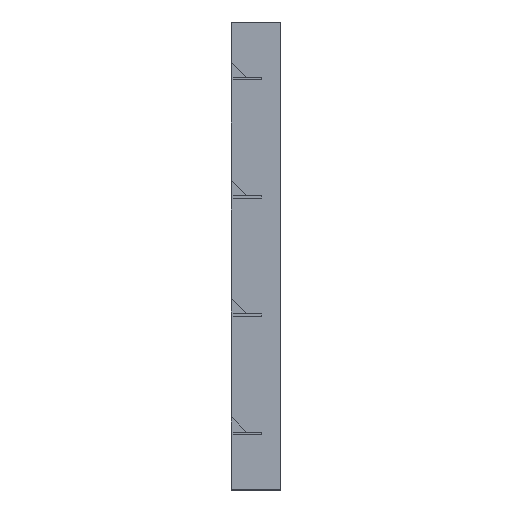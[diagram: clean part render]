
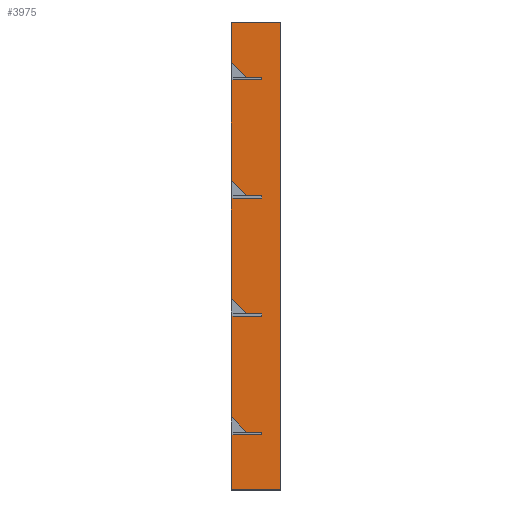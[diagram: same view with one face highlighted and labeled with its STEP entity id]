
A CAD part, left-side view. The second image highlights one B-rep face of the part: STEP entity #3975.
In plain terms, the highlighted planar face has unit normal (-1, 0, 0) as drawn and (0, 0, 1) by its records, which use the part's own axes.
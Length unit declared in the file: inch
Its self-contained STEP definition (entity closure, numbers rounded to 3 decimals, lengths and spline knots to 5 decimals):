
#259=FACE_OUTER_BOUND('',#455,.T.);
#455=EDGE_LOOP('',(#3387,#3388,#3389,#3390,#3391,#3392,#3393,#3394,#3395,
#3396,#3397,#3398,#3399,#3400,#3401,#3402,#3403,#3404,#3405,#3406,#3407,
#3408,#3409,#3410,#3411,#3412,#3413,#3414,#3415,#3416,#3417,#3418));
#897=LINE('',#6090,#1449);
#901=LINE('',#6097,#1453);
#904=LINE('',#6103,#1456);
#907=LINE('',#6111,#1459);
#911=LINE('',#6118,#1463);
#913=LINE('',#6121,#1465);
#916=LINE('',#6129,#1468);
#920=LINE('',#6136,#1472);
#923=LINE('',#6142,#1475);
#926=LINE('',#6150,#1478);
#930=LINE('',#6157,#1482);
#932=LINE('',#6160,#1484);
#935=LINE('',#6168,#1487);
#939=LINE('',#6175,#1491);
#942=LINE('',#6181,#1494);
#945=LINE('',#6189,#1497);
#949=LINE('',#6196,#1501);
#951=LINE('',#6199,#1503);
#952=LINE('',#6201,#1504);
#953=LINE('',#6202,#1505);
#954=LINE('',#6204,#1506);
#955=LINE('',#6206,#1507);
#956=LINE('',#6208,#1508);
#957=LINE('',#6210,#1509);
#958=LINE('',#6212,#1510);
#959=LINE('',#6214,#1511);
#960=LINE('',#6216,#1512);
#961=LINE('',#6218,#1513);
#962=LINE('',#6220,#1514);
#963=LINE('',#6222,#1515);
#964=LINE('',#6224,#1516);
#965=LINE('',#6225,#1517);
#1449=VECTOR('',#4970,0.3937);
#1453=VECTOR('',#4976,0.3937);
#1456=VECTOR('',#4981,0.3937);
#1459=VECTOR('',#4986,0.3937);
#1463=VECTOR('',#4992,0.3937);
#1465=VECTOR('',#4996,0.3937);
#1468=VECTOR('',#5001,0.3937);
#1472=VECTOR('',#5007,0.3937);
#1475=VECTOR('',#5012,0.3937);
#1478=VECTOR('',#5017,0.3937);
#1482=VECTOR('',#5023,0.3937);
#1484=VECTOR('',#5027,0.3937);
#1487=VECTOR('',#5032,0.3937);
#1491=VECTOR('',#5038,0.3937);
#1494=VECTOR('',#5043,0.3937);
#1497=VECTOR('',#5048,0.3937);
#1501=VECTOR('',#5054,0.3937);
#1503=VECTOR('',#5058,0.3937);
#1504=VECTOR('',#5061,0.3937);
#1505=VECTOR('',#5062,0.3937);
#1506=VECTOR('',#5063,0.3937);
#1507=VECTOR('',#5064,0.3937);
#1508=VECTOR('',#5065,0.3937);
#1509=VECTOR('',#5066,0.3937);
#1510=VECTOR('',#5067,0.3937);
#1511=VECTOR('',#5068,0.3937);
#1512=VECTOR('',#5069,0.3937);
#1513=VECTOR('',#5070,0.3937);
#1514=VECTOR('',#5071,0.3937);
#1515=VECTOR('',#5072,0.3937);
#1516=VECTOR('',#5073,0.3937);
#1517=VECTOR('',#5074,0.3937);
#1869=VERTEX_POINT('',#6087);
#1870=VERTEX_POINT('',#6089);
#1872=VERTEX_POINT('',#6095);
#1874=VERTEX_POINT('',#6101);
#1877=VERTEX_POINT('',#6108);
#1878=VERTEX_POINT('',#6110);
#1880=VERTEX_POINT('',#6116);
#1883=VERTEX_POINT('',#6126);
#1884=VERTEX_POINT('',#6128);
#1886=VERTEX_POINT('',#6134);
#1888=VERTEX_POINT('',#6140);
#1891=VERTEX_POINT('',#6147);
#1892=VERTEX_POINT('',#6149);
#1894=VERTEX_POINT('',#6155);
#1897=VERTEX_POINT('',#6165);
#1898=VERTEX_POINT('',#6167);
#1900=VERTEX_POINT('',#6173);
#1902=VERTEX_POINT('',#6179);
#1905=VERTEX_POINT('',#6186);
#1906=VERTEX_POINT('',#6188);
#1908=VERTEX_POINT('',#6194);
#1909=VERTEX_POINT('',#6203);
#1910=VERTEX_POINT('',#6205);
#1911=VERTEX_POINT('',#6207);
#1912=VERTEX_POINT('',#6209);
#1913=VERTEX_POINT('',#6211);
#1914=VERTEX_POINT('',#6213);
#1915=VERTEX_POINT('',#6215);
#1916=VERTEX_POINT('',#6217);
#1917=VERTEX_POINT('',#6219);
#1918=VERTEX_POINT('',#6221);
#1919=VERTEX_POINT('',#6223);
#2369=EDGE_CURVE('',#1870,#1869,#897,.T.);
#2373=EDGE_CURVE('',#1869,#1872,#901,.T.);
#2376=EDGE_CURVE('',#1872,#1874,#904,.T.);
#2379=EDGE_CURVE('',#1878,#1877,#907,.T.);
#2383=EDGE_CURVE('',#1877,#1880,#911,.T.);
#2385=EDGE_CURVE('',#1880,#1870,#913,.T.);
#2388=EDGE_CURVE('',#1884,#1883,#916,.T.);
#2392=EDGE_CURVE('',#1883,#1886,#920,.T.);
#2395=EDGE_CURVE('',#1886,#1888,#923,.T.);
#2398=EDGE_CURVE('',#1892,#1891,#926,.T.);
#2402=EDGE_CURVE('',#1891,#1894,#930,.T.);
#2404=EDGE_CURVE('',#1894,#1884,#932,.T.);
#2407=EDGE_CURVE('',#1898,#1897,#935,.T.);
#2411=EDGE_CURVE('',#1897,#1900,#939,.T.);
#2414=EDGE_CURVE('',#1900,#1902,#942,.T.);
#2417=EDGE_CURVE('',#1906,#1905,#945,.T.);
#2421=EDGE_CURVE('',#1905,#1908,#949,.T.);
#2423=EDGE_CURVE('',#1908,#1898,#951,.T.);
#2424=EDGE_CURVE('',#1874,#1892,#952,.T.);
#2425=EDGE_CURVE('',#1888,#1906,#953,.T.);
#2426=EDGE_CURVE('',#1902,#1909,#954,.T.);
#2427=EDGE_CURVE('',#1909,#1910,#955,.T.);
#2428=EDGE_CURVE('',#1910,#1911,#956,.T.);
#2429=EDGE_CURVE('',#1911,#1912,#957,.T.);
#2430=EDGE_CURVE('',#1912,#1913,#958,.T.);
#2431=EDGE_CURVE('',#1913,#1914,#959,.T.);
#2432=EDGE_CURVE('',#1914,#1915,#960,.T.);
#2433=EDGE_CURVE('',#1915,#1916,#961,.T.);
#2434=EDGE_CURVE('',#1916,#1917,#962,.T.);
#2435=EDGE_CURVE('',#1917,#1918,#963,.T.);
#2436=EDGE_CURVE('',#1918,#1919,#964,.T.);
#2437=EDGE_CURVE('',#1919,#1878,#965,.T.);
#3387=ORIENTED_EDGE('',*,*,#2379,.T.);
#3388=ORIENTED_EDGE('',*,*,#2383,.T.);
#3389=ORIENTED_EDGE('',*,*,#2385,.T.);
#3390=ORIENTED_EDGE('',*,*,#2369,.T.);
#3391=ORIENTED_EDGE('',*,*,#2373,.T.);
#3392=ORIENTED_EDGE('',*,*,#2376,.T.);
#3393=ORIENTED_EDGE('',*,*,#2424,.T.);
#3394=ORIENTED_EDGE('',*,*,#2398,.T.);
#3395=ORIENTED_EDGE('',*,*,#2402,.T.);
#3396=ORIENTED_EDGE('',*,*,#2404,.T.);
#3397=ORIENTED_EDGE('',*,*,#2388,.T.);
#3398=ORIENTED_EDGE('',*,*,#2392,.T.);
#3399=ORIENTED_EDGE('',*,*,#2395,.T.);
#3400=ORIENTED_EDGE('',*,*,#2425,.T.);
#3401=ORIENTED_EDGE('',*,*,#2417,.T.);
#3402=ORIENTED_EDGE('',*,*,#2421,.T.);
#3403=ORIENTED_EDGE('',*,*,#2423,.T.);
#3404=ORIENTED_EDGE('',*,*,#2407,.T.);
#3405=ORIENTED_EDGE('',*,*,#2411,.T.);
#3406=ORIENTED_EDGE('',*,*,#2414,.T.);
#3407=ORIENTED_EDGE('',*,*,#2426,.T.);
#3408=ORIENTED_EDGE('',*,*,#2427,.T.);
#3409=ORIENTED_EDGE('',*,*,#2428,.T.);
#3410=ORIENTED_EDGE('',*,*,#2429,.T.);
#3411=ORIENTED_EDGE('',*,*,#2430,.T.);
#3412=ORIENTED_EDGE('',*,*,#2431,.T.);
#3413=ORIENTED_EDGE('',*,*,#2432,.T.);
#3414=ORIENTED_EDGE('',*,*,#2433,.T.);
#3415=ORIENTED_EDGE('',*,*,#2434,.T.);
#3416=ORIENTED_EDGE('',*,*,#2435,.T.);
#3417=ORIENTED_EDGE('',*,*,#2436,.T.);
#3418=ORIENTED_EDGE('',*,*,#2437,.T.);
#3779=PLANE('',#4232);
#3975=ADVANCED_FACE('',(#259),#3779,.T.);
#4232=AXIS2_PLACEMENT_3D('',#6200,#5059,#5060);
#4970=DIRECTION('',(0.,1.,0.));
#4976=DIRECTION('',(1.,0.,0.));
#4981=DIRECTION('',(0.,1.,0.));
#4986=DIRECTION('',(-0.703,-0.711,0.));
#4992=DIRECTION('',(0.,-1.,0.));
#4996=DIRECTION('',(-1.,0.,0.));
#5001=DIRECTION('',(0.,1.,0.));
#5007=DIRECTION('',(1.,0.,0.));
#5012=DIRECTION('',(0.,1.,0.));
#5017=DIRECTION('',(-0.703,-0.711,0.));
#5023=DIRECTION('',(0.,-1.,0.));
#5027=DIRECTION('',(-1.,0.,0.));
#5032=DIRECTION('',(0.,1.,0.));
#5038=DIRECTION('',(1.,0.,0.));
#5043=DIRECTION('',(0.,1.,0.));
#5048=DIRECTION('',(-0.703,-0.711,0.));
#5054=DIRECTION('',(0.,-1.,0.));
#5058=DIRECTION('',(-1.,0.,0.));
#5059=DIRECTION('center_axis',(0.,0.,1.));
#5060=DIRECTION('ref_axis',(1.,0.,0.));
#5061=DIRECTION('',(-1.,0.,0.));
#5062=DIRECTION('',(-1.,0.,0.));
#5063=DIRECTION('',(-1.,0.,0.));
#5064=DIRECTION('',(-0.703,-0.711,0.));
#5065=DIRECTION('',(0.,-1.,0.));
#5066=DIRECTION('',(-1.,0.,0.));
#5067=DIRECTION('',(0.,1.,0.));
#5068=DIRECTION('',(1.,0.,0.));
#5069=DIRECTION('',(0.,1.,0.));
#5070=DIRECTION('',(-1.,0.,0.));
#5071=DIRECTION('',(0.,-1.,0.));
#5072=DIRECTION('',(1.,0.,0.));
#5073=DIRECTION('',(0.,1.,0.));
#5074=DIRECTION('',(-1.,0.,0.));
#6087=CARTESIAN_POINT('',(83.25,9.375,0.48));
#6089=CARTESIAN_POINT('',(83.25,4.375,0.48));
#6090=CARTESIAN_POINT('',(83.25,7.1875,0.48));
#6095=CARTESIAN_POINT('',(83.495,9.375,0.48));
#6097=CARTESIAN_POINT('',(65.4975,9.375,0.48));
#6101=CARTESIAN_POINT('',(83.495,10.,0.48));
#6103=CARTESIAN_POINT('',(83.495,7.5,0.48));
#6108=CARTESIAN_POINT('',(83.75,6.875,0.48));
#6110=CARTESIAN_POINT('',(86.8409,10.,0.48));
#6111=CARTESIAN_POINT('',(74.31821,-2.66085,0.48));
#6116=CARTESIAN_POINT('',(83.75,4.375,0.48));
#6118=CARTESIAN_POINT('',(83.75,4.6875,0.48));
#6121=CARTESIAN_POINT('',(65.375,4.375,0.48));
#6126=CARTESIAN_POINT('',(59.25,9.375,0.48));
#6128=CARTESIAN_POINT('',(59.25,4.375,0.48));
#6129=CARTESIAN_POINT('',(59.25,7.1875,0.48));
#6134=CARTESIAN_POINT('',(59.495,9.375,0.48));
#6136=CARTESIAN_POINT('',(53.4975,9.375,0.48));
#6140=CARTESIAN_POINT('',(59.495,10.,0.48));
#6142=CARTESIAN_POINT('',(59.495,7.5,0.48));
#6147=CARTESIAN_POINT('',(59.75,6.875,0.48));
#6149=CARTESIAN_POINT('',(62.8409,10.,0.48));
#6150=CARTESIAN_POINT('',(56.25238,3.33879,0.48));
#6155=CARTESIAN_POINT('',(59.75,4.375,0.48));
#6157=CARTESIAN_POINT('',(59.75,4.6875,0.48));
#6160=CARTESIAN_POINT('',(53.375,4.375,0.48));
#6165=CARTESIAN_POINT('',(35.25,9.375,0.48));
#6167=CARTESIAN_POINT('',(35.25,4.375,0.48));
#6168=CARTESIAN_POINT('',(35.25,7.1875,0.48));
#6173=CARTESIAN_POINT('',(35.495,9.375,0.48));
#6175=CARTESIAN_POINT('',(41.4975,9.375,0.48));
#6179=CARTESIAN_POINT('',(35.495,10.,0.48));
#6181=CARTESIAN_POINT('',(35.495,7.5,0.48));
#6186=CARTESIAN_POINT('',(35.75,6.875,0.48));
#6188=CARTESIAN_POINT('',(38.8409,10.,0.48));
#6189=CARTESIAN_POINT('',(38.18655,9.33843,0.48));
#6194=CARTESIAN_POINT('',(35.75,4.375,0.48));
#6196=CARTESIAN_POINT('',(35.75,4.6875,0.48));
#6199=CARTESIAN_POINT('',(41.375,4.375,0.48));
#6200=CARTESIAN_POINT('Origin',(47.5,5.,0.48));
#6201=CARTESIAN_POINT('',(95.,10.,0.48));
#6202=CARTESIAN_POINT('',(95.,10.,0.48));
#6203=CARTESIAN_POINT('',(14.8409,10.,0.48));
#6204=CARTESIAN_POINT('',(95.,10.,0.48));
#6205=CARTESIAN_POINT('',(11.75,6.875,0.48));
#6206=CARTESIAN_POINT('',(20.12072,15.33807,0.48));
#6207=CARTESIAN_POINT('',(11.75,4.375,0.48));
#6208=CARTESIAN_POINT('',(11.75,4.6875,0.48));
#6209=CARTESIAN_POINT('',(11.25,4.375,0.48));
#6210=CARTESIAN_POINT('',(29.375,4.375,0.48));
#6211=CARTESIAN_POINT('',(11.25,9.375,0.48));
#6212=CARTESIAN_POINT('',(11.25,7.1875,0.48));
#6213=CARTESIAN_POINT('',(11.495,9.375,0.48));
#6214=CARTESIAN_POINT('',(29.4975,9.375,0.48));
#6215=CARTESIAN_POINT('',(11.495,10.,0.48));
#6216=CARTESIAN_POINT('',(11.495,7.5,0.48));
#6217=CARTESIAN_POINT('',(0.,10.,0.48));
#6218=CARTESIAN_POINT('',(95.,10.,0.48));
#6219=CARTESIAN_POINT('',(0.,0.,0.48));
#6220=CARTESIAN_POINT('',(0.,10.,0.48));
#6221=CARTESIAN_POINT('',(95.,0.,0.48));
#6222=CARTESIAN_POINT('',(0.,0.,0.48));
#6223=CARTESIAN_POINT('',(95.,10.,0.48));
#6224=CARTESIAN_POINT('',(95.,0.,0.48));
#6225=CARTESIAN_POINT('',(95.,10.,0.48));
